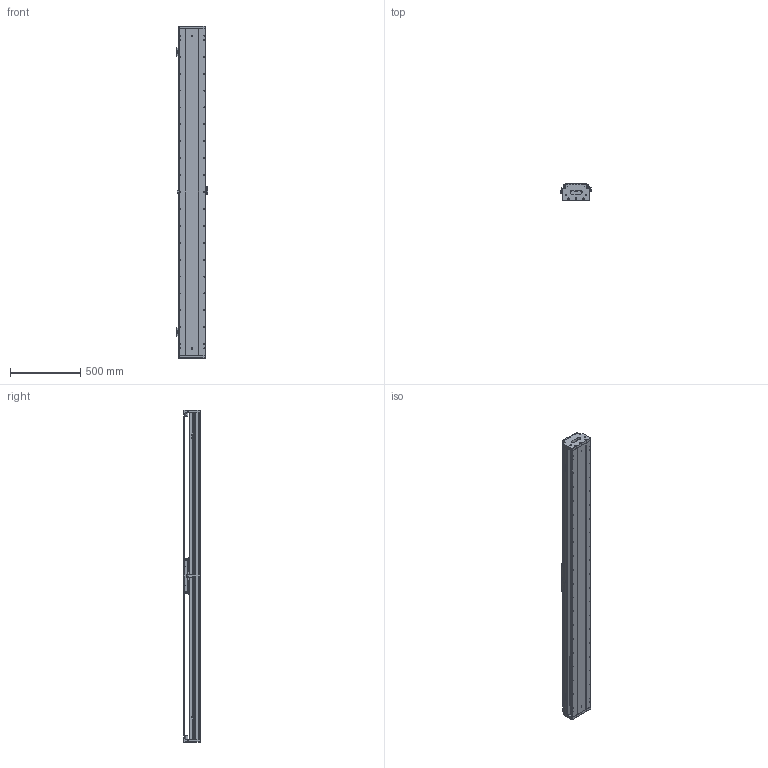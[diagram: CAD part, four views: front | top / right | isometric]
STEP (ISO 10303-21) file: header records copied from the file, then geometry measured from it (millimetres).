
FILE_DESCRIPTION (( 'STEP AP203' ), '1' );
FILE_NAME ('DKW188-C2-W090(T1980-L005-0.2).STEP', '2021-09-14T01:19:18', ( '微软用户' ), ( '微软中国' ), 'SwSTEP 2.0', 'SolidWorks 2018', '' );
FILE_SCHEMA (( 'CONFIG_CONTROL_DESIGN' ));
Length unit declared in the file: millimetre
Products named in the file (25): SSR25-DG; DKW168-RU-DTJ-00 RU2黍杅芛盓殤; 11899-0001-002-00 詩湍裔啣; SSR25XW1UUC1; RUS嫖掑喜; DKW188 单轴模组-拉钢带组件; CKMA01-W090-TRLxxx; Ru2; DKW168-HYB-00 賑輸揤啣; 11899-0001-003-00 傷啣; 11500-0001-010-00 賑怢啣; RUS嫖掑郪璃; pm-y65; DKW168-HXJ-00 遣喳砎蝶; CKM02-W090-C1C2-TP-3.0 珨极萇儂; 10980-0001-003-00 嫖萇羲壽嘐隅釱; 11899-0001-004-00 詩湍嶺輸; DKW188-C2-W090(T1980-L005-0.2); 嫖萇羲壽蚾饜极; 11899-0001-005-00 詩湍揤輸; 嫖萇羲壽蚾饜极A; 11899-0001-006-00 嶺輸菜輸; 11899-0001-001-00 菁釱; DKW-SG-GYP-H-00 嫖萇覜茼え; 砎蝶猾沭
Assembly tree (40 placements, depth 3):
  DKW188-C2-W090(T1980-L005-0.2)
    11899-0001-001-00 菁釱
    SSR25-DG  x2
    SSR25XW1UUC1  x4
    CKMA01-W090-TRLxxx
    11500-0001-010-00 賑怢啣
    DKW188 单轴模组-拉钢带组件
      11899-0001-003-00 傷啣  x2
      DKW168-HXJ-00 遣喳砎蝶  x4
      11899-0001-004-00 詩湍嶺輸  x2
      11899-0001-005-00 詩湍揤輸  x2
      11899-0001-006-00 嶺輸菜輸  x2
      砎蝶猾沭  x2
      11899-0001-002-00 詩湍裔啣
    DKW168-HYB-00 賑輸揤啣  x2
    嫖萇羲壽蚾饜极
      pm-y65  x2
      10980-0001-003-00 嫖萇羲壽嘐隅釱
    嫖萇羲壽蚾饜极A
      pm-y65
      10980-0001-003-00 嫖萇羲壽嘐隅釱
    DKW-SG-GYP-H-00 嫖萇覜茼え
    DKW168-RU-DTJ-00 RU2黍杅芛盓殤
    RUS嫖掑郪璃
      RUS嫖掑喜
      Ru2
    CKM02-W090-C1C2-TP-3.0 珨极萇儂
Bounding box: 222.1 x 120 x 2356 mm (x, y, z)
Volume: 18299158.4 mm3; surface area: 4806223.3 mm2
Topology: 39 solids, 88 shells, 4538 faces, 11783 edges, 7484 vertices
Faces by surface type: plane 2137, cylinder 1648, cone 478, bspline 275
Entity records: 119184 total; most frequent: CARTESIAN_POINT 40215, ORIENTED_EDGE 15671, DIRECTION 15298, EDGE_CURVE 7876, AXIS2_PLACEMENT_3D 5279, VERTEX_POINT 5149, VECTOR 4740, LINE 4740
